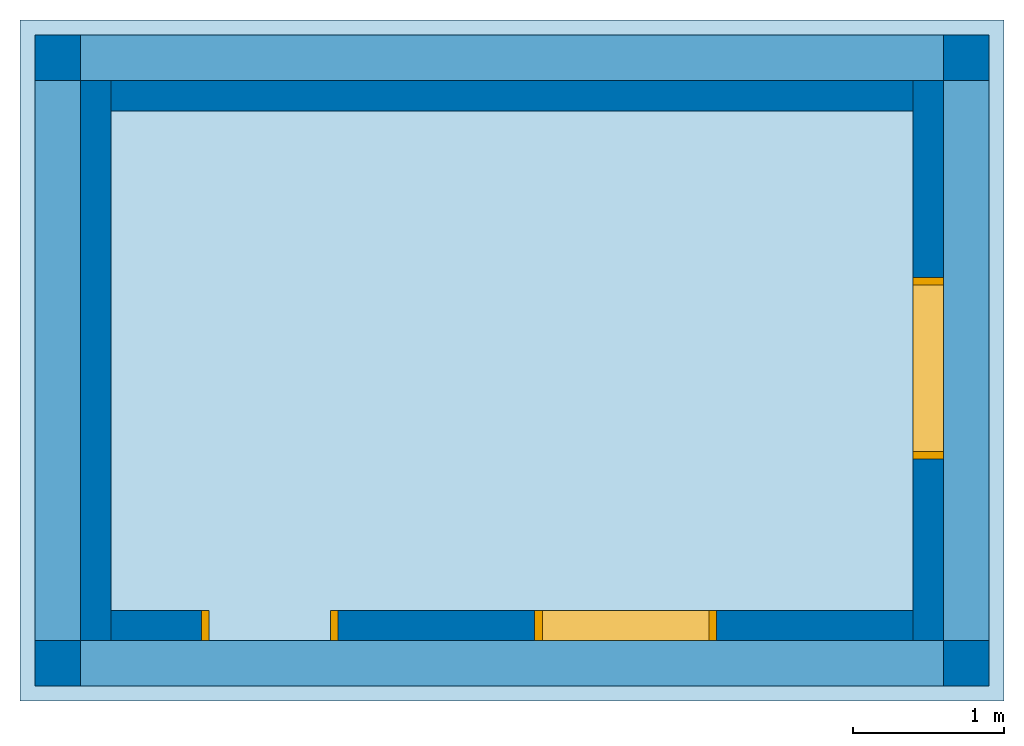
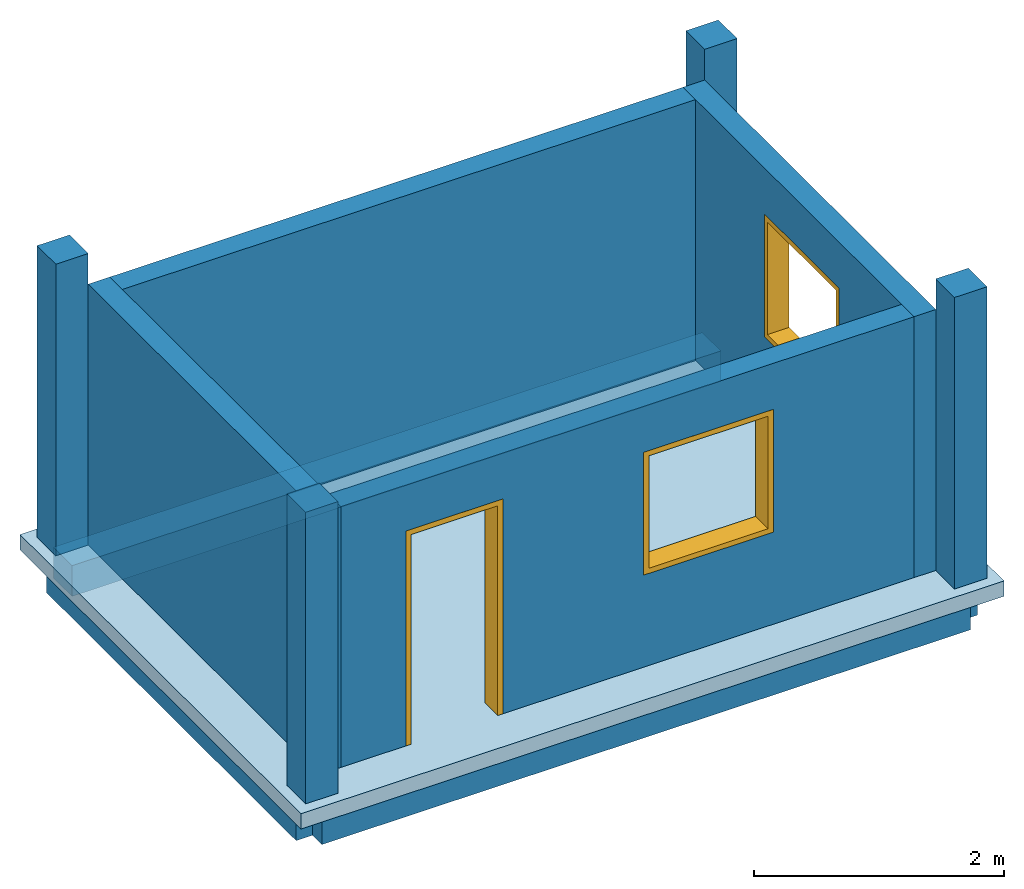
# One storey: 4 beams, 4 columns, 4 walls, 2 windows, 1 door, 1 slab, 3 openings.
"""IFC4 building model written with IfcOpenShell, lengths in metres."""

from ifc_helpers import new_model, si_unit, frame, origin_with_axes, place, context, subcontext, project, spatial, polyline, outline, extrude, boolean, material, layer, layer_set, layer_usage, type_object, element, fill, save


model = new_model("IFC4")

# Units and contexts
model_context = context("Model", 3, precision=1e-07, world=origin_with_axes())
body_context = subcontext(model_context, "Body", "Model", "MODEL_VIEW")
ifc_project = project(units=[si_unit("LENGTHUNIT", "METRE"), si_unit("AREAUNIT", "SQUARE_METRE"), si_unit("VOLUMEUNIT", "CUBIC_METRE")], contexts=[model_context])

# Site, building, storey
site_placement = place(None, origin_with_axes())
site = spatial("IfcSite", under=ifc_project, at=site_placement, Name="3117 Site", CompositionType="ELEMENT")
building_placement = place(site_placement, origin_with_axes())
building = spatial("IfcBuilding", under=site, at=building_placement, Name="3117 อาคารสองชั้น", CompositionType="ELEMENT")
storey_placement = place(building_placement, frame((0.0, 0.0, 3.0), z_axis=(0.0, 0.0, 1.0), x_axis=(1.0, 0.0, 0.0)))
storey = spatial("IfcBuildingStorey", under=building, at=storey_placement, Name="L01", CompositionType="ELEMENT", Elevation=3.0)

# Columns
ifc_material_1 = material(Name="Concrete")
column_type = type_object("IfcColumnType", Name="Column 300 x 300", PredefinedType="COLUMN", material=ifc_material_1)
column_1_placement = place(storey_placement, frame((6.0, 4.0, 0.0), z_axis=(0.0, 0.0, 1.0), x_axis=(1.0, 0.0, 0.0)))
element("IfcColumn", 1, at=column_1_placement, inside=storey, type_object=column_type, Name="C23", PredefinedType="COLUMN", context=body_context, shape_type="CSG", body=[
    boolean("DIFFERENCE", extrude(outline(polyline([(0.0, 0.0), (0.3, 0.0), (0.3, 0.3), (0.0, 0.3), (0.0, 0.0)])), frame((-0.15, -0.15, 0.0), z_axis=(0.0, 0.0, 1.0), x_axis=(1.0, 0.0, 0.0)), (0.0, 0.0, 1.0), 3.0), extrude(outline(polyline([(-6.25, -4.25), (0.25, -4.25), (0.25, 0.25), (-6.25, 0.25), (-6.25, -4.25)])), frame((0.0, 0.0, 2.85), z_axis=(0.0, 0.0, 1.0), x_axis=(1.0, 0.0, 0.0)), (0.0, 0.0, 1.0), 0.15)),
])
column_2_placement = place(storey_placement, frame((6.0, 0.0, 0.0), z_axis=(0.0, 0.0, 1.0), x_axis=(1.0, 0.0, 0.0)))
element("IfcColumn", 2, at=column_2_placement, inside=storey, type_object=column_type, Name="C22", PredefinedType="COLUMN", context=body_context, shape_type="CSG", body=[
    boolean("DIFFERENCE", extrude(outline(polyline([(0.0, 0.0), (0.3, 0.0), (0.3, 0.3), (0.0, 0.3), (0.0, 0.0)])), frame((-0.15, -0.15, 0.0), z_axis=(0.0, 0.0, 1.0), x_axis=(1.0, 0.0, 0.0)), (0.0, 0.0, 1.0), 3.0), extrude(outline(polyline([(-6.25, -0.25), (0.25, -0.25), (0.25, 4.25), (-6.25, 4.25), (-6.25, -0.25)])), frame((0.0, 0.0, 2.85), z_axis=(0.0, 0.0, 1.0), x_axis=(1.0, 0.0, 0.0)), (0.0, 0.0, 1.0), 0.15)),
])
column_3_placement = place(storey_placement, frame((0.0, 4.0, 0.0), z_axis=(0.0, 0.0, 1.0), x_axis=(1.0, 0.0, 0.0)))
element("IfcColumn", 3, at=column_3_placement, inside=storey, type_object=column_type, Name="C24", PredefinedType="COLUMN", context=body_context, shape_type="CSG", body=[
    boolean("DIFFERENCE", extrude(outline(polyline([(0.0, 0.0), (0.3, 0.0), (0.3, 0.3), (0.0, 0.3), (0.0, 0.0)])), frame((-0.15, -0.15, 0.0), z_axis=(0.0, 0.0, 1.0), x_axis=(1.0, 0.0, 0.0)), (0.0, 0.0, 1.0), 3.0), extrude(outline(polyline([(-0.25, -4.25), (6.25, -4.25), (6.25, 0.25), (-0.25, 0.25), (-0.25, -4.25)])), frame((0.0, 0.0, 2.85), z_axis=(0.0, 0.0, 1.0), x_axis=(1.0, 0.0, 0.0)), (0.0, 0.0, 1.0), 0.15)),
])
column_4_placement = place(storey_placement, origin_with_axes())
element("IfcColumn", 4, at=column_4_placement, inside=storey, type_object=column_type, Name="C21", PredefinedType="COLUMN", context=body_context, shape_type="CSG", body=[
    boolean("DIFFERENCE", extrude(outline(polyline([(0.0, 0.0), (0.3, 0.0), (0.3, 0.3), (0.0, 0.3), (0.0, 0.0)])), frame((-0.15, -0.15, 0.0), z_axis=(0.0, 0.0, 1.0), x_axis=(1.0, 0.0, 0.0)), (0.0, 0.0, 1.0), 3.0), extrude(outline(polyline([(-0.25, -0.25), (6.25, -0.25), (6.25, 4.25), (-0.25, 4.25), (-0.25, -0.25)])), frame((0.0, 0.0, 2.85), z_axis=(0.0, 0.0, 1.0), x_axis=(1.0, 0.0, 0.0)), (0.0, 0.0, 1.0), 0.15)),
])

# Beams
beam_type = type_object("IfcBeamType", Name="Beam 300 x 450", PredefinedType="BEAM", material=ifc_material_1)
beam_1_placement = place(storey_placement, frame((6.0, 0.0, -0.45), z_axis=(0.0, 0.0, 1.0), x_axis=(0.0, 1.0, 0.0)))
element("IfcBeam", 5, at=beam_1_placement, inside=storey, type_object=beam_type, Name="B12", PredefinedType="BEAM", context=body_context, shape_type="CSG", body=[
    boolean("DIFFERENCE", extrude(outline(polyline([(0.0, 0.0), (4.0, 0.0), (4.0, 0.3), (0.0, 0.3), (0.0, 0.0)])), frame((0.0, -0.15, 0.0), z_axis=(0.0, 0.0, 1.0), x_axis=(1.0, 0.0, 0.0)), (0.0, 0.0, 1.0), 0.45), extrude(outline(polyline([(-0.25, 6.25), (-0.25, -0.25), (4.25, -0.25), (4.25, 6.25), (-0.25, 6.25)])), frame((0.0, 0.0, 0.3), z_axis=(0.0, 0.0, 1.0), x_axis=(1.0, 0.0, 0.0)), (0.0, 0.0, 1.0), 0.15)),
])
beam_2_placement = place(storey_placement, frame((0.0, 0.0, -0.45), z_axis=(0.0, 0.0, 1.0), x_axis=(1.0, 0.0, 0.0)))
element("IfcBeam", 6, at=beam_2_placement, inside=storey, type_object=beam_type, Name="B11", PredefinedType="BEAM", context=body_context, shape_type="CSG", body=[
    boolean("DIFFERENCE", extrude(outline(polyline([(0.0, 0.0), (6.0, 0.0), (6.0, 0.3), (0.0, 0.3), (0.0, 0.0)])), frame((0.0, -0.15, 0.0), z_axis=(0.0, 0.0, 1.0), x_axis=(1.0, 0.0, 0.0)), (0.0, 0.0, 1.0), 0.45), extrude(outline(polyline([(-0.25, -0.25), (6.25, -0.25), (6.25, 4.25), (-0.25, 4.25), (-0.25, -0.25)])), frame((0.0, 0.0, 0.3), z_axis=(0.0, 0.0, 1.0), x_axis=(1.0, 0.0, 0.0)), (0.0, 0.0, 1.0), 0.15)),
])
beam_3_placement = place(storey_placement, frame((6.0, 4.0, -0.45), z_axis=(0.0, 0.0, 1.0), x_axis=(-1.0, 0.0, 0.0)))
element("IfcBeam", 7, at=beam_3_placement, inside=storey, type_object=beam_type, Name="B13", PredefinedType="BEAM", context=body_context, shape_type="CSG", body=[
    boolean("DIFFERENCE", extrude(outline(polyline([(0.0, 0.0), (6.0, 0.0), (6.0, 0.3), (0.0, 0.3), (0.0, 0.0)])), frame((0.0, -0.15, 0.0), z_axis=(0.0, 0.0, 1.0), x_axis=(1.0, 0.0, 0.0)), (0.0, 0.0, 1.0), 0.45), extrude(outline(polyline([(6.25, 4.25), (-0.25, 4.25), (-0.25, -0.25), (6.25, -0.25), (6.25, 4.25)])), frame((0.0, 0.0, 0.3), z_axis=(0.0, 0.0, 1.0), x_axis=(1.0, 0.0, 0.0)), (0.0, 0.0, 1.0), 0.15)),
])
beam_4_placement = place(storey_placement, frame((0.0, 4.0, -0.45), z_axis=(0.0, 0.0, 1.0), x_axis=(0.0, -1.0, 0.0)))
element("IfcBeam", 8, at=beam_4_placement, inside=storey, type_object=beam_type, Name="B14", PredefinedType="BEAM", context=body_context, shape_type="CSG", body=[
    boolean("DIFFERENCE", extrude(outline(polyline([(0.0, 0.0), (4.0, 0.0), (4.0, 0.3), (0.0, 0.3), (0.0, 0.0)])), frame((0.0, -0.15, 0.0), z_axis=(0.0, 0.0, 1.0), x_axis=(1.0, 0.0, 0.0)), (0.0, 0.0, 1.0), 0.45), extrude(outline(polyline([(4.25, -0.25), (4.25, 6.25), (-0.25, 6.25), (-0.25, -0.25), (4.25, -0.25)])), frame((0.0, 0.0, 0.3), z_axis=(0.0, 0.0, 1.0), x_axis=(1.0, 0.0, 0.0)), (0.0, 0.0, 1.0), 0.15)),
])

# Slab
ifc_material_2 = material(Name="Floor finish")
ifc_layer_1 = layer(ifc_material_2, 0.01, Name="finish", Category="finish")
ifc_material_3 = material(Name="Screed")
ifc_layer_2 = layer(ifc_material_3, 0.04, Name="substrate", Category="substrate")
ifc_layer_3 = layer(ifc_material_1, 0.1, Name="structure", Category="structure")
ifc_layer_set_1 = layer_set([ifc_layer_1, ifc_layer_2, ifc_layer_3], Name="Slab 150 layered")
ifc_layer_usage_1 = layer_usage(ifc_layer_set_1, "AXIS3", "NEGATIVE", 0.15)
slab_type = type_object("IfcSlabType", Name="Slab 150 layered", PredefinedType="FLOOR", material=ifc_layer_set_1)
slab_placement = place(storey_placement, frame((0.0, 0.0, -0.15), z_axis=(0.0, 0.0, 1.0), x_axis=(1.0, 0.0, 0.0)))
element("IfcSlab", 9, at=slab_placement, inside=storey, type_object=slab_type, material=ifc_layer_usage_1, Name="S01", PredefinedType="FLOOR", context=body_context, shape_type="SweptSolid", body=[
    extrude(outline(polyline([(-0.25, -0.25), (6.25, -0.25), (6.25, 4.25), (-0.25, 4.25), (-0.25, -0.25)])), origin_with_axes(), (0.0, 0.0, 1.0), 0.15),
])

# Wall, openings, door, window
ifc_material_4 = material(Name="Plaster")
ifc_layer_4 = layer(ifc_material_4, 0.015, Name="finish", Category="finish")
ifc_material_5 = material(Name="Masonry")
ifc_layer_5 = layer(ifc_material_5, 0.17, Name="core", Category="core")
ifc_layer_6 = layer(ifc_material_4, 0.015, Name="finish", Category="finish")
ifc_layer_set_2 = layer_set([ifc_layer_4, ifc_layer_5, ifc_layer_6], Name="Wall 200 layered")
ifc_layer_usage_2 = layer_usage(ifc_layer_set_2, "AXIS2", "POSITIVE", 0.0)
wall_type = type_object("IfcWallType", Name="Wall 200 layered", PredefinedType="STANDARD", material=ifc_layer_set_2)
wall_1_placement = place(storey_placement, frame((0.15, 0.15, 0.0), z_axis=(0.0, 0.0, 1.0), x_axis=(1.0, 0.0, 0.0)))
wall_1 = element("IfcWall", 10, at=wall_1_placement, inside=storey, type_object=wall_type, material=ifc_layer_usage_2, Name="Wall 2-1", PredefinedType="STANDARD", context=body_context, shape_type="SweptSolid", body=[
    extrude(outline(polyline([(0.0, 0.0), (5.7, 0.0), (5.7, 0.2), (0.0, 0.2), (0.0, 0.0)])), origin_with_axes(), (0.0, 0.0, 1.0), 2.55),
])
opening_1_placement = place(wall_1_placement, frame((3.0, -1e-06, 0.9), z_axis=(0.0, 0.0, 1.0), x_axis=(1.0, 0.0, 0.0)))
opening_1 = element("IfcOpeningElement", 11, at=opening_1_placement, cuts=wall_1, Name="Opening — WIN21", PredefinedType="OPENING", context=body_context, shape_type="SweptSolid", body=[
    extrude(outline(polyline([(0.0, 0.0), (1.2, 0.0), (1.2, 0.200002), (0.0, 0.200002), (0.0, 0.0)])), origin_with_axes(), (0.0, 0.0, 1.0), 1.2),
])
opening_2_placement = place(wall_1_placement, frame((0.8, -1e-06, 0.0), z_axis=(0.0, 0.0, 1.0), x_axis=(1.0, 0.0, 0.0)))
opening_2 = element("IfcOpeningElement", 12, at=opening_2_placement, cuts=wall_1, Name="Opening — D02", PredefinedType="OPENING", context=body_context, shape_type="SweptSolid", body=[
    extrude(outline(polyline([(0.0, 0.0), (0.9, 0.0), (0.9, 0.200002), (0.0, 0.200002), (0.0, 0.0)])), origin_with_axes(), (0.0, 0.0, 1.0), 2.1),
])
ifc_material_6 = material(Name="Timber frame")
door_type = type_object("IfcDoorType", Name="Door 900 x 2100", OperationType="NOTDEFINED", ParameterTakesPrecedence=False, PredefinedType="DOOR", material=ifc_material_6)
door_placement = place(opening_2_placement, frame((0.0, 1e-06, 0.0), z_axis=(0.0, 0.0, 1.0), x_axis=(1.0, 0.0, 0.0)))
door = element("IfcDoor", 13, at=door_placement, inside=storey, type_object=door_type, Name="D02", OperationType="NOTDEFINED", OverallHeight=2.1, OverallWidth=0.9, PredefinedType="DOOR", context=body_context, shape_type="SweptSolid", body=[
    extrude(outline(polyline([(0.0, 0.0), (0.05, 0.0), (0.05, 0.2), (0.0, 0.2), (0.0, 0.0)])), origin_with_axes(), (0.0, 0.0, 1.0), 2.05),
    extrude(outline(polyline([(0.0, 0.0), (0.05, 0.0), (0.05, 0.2), (0.0, 0.2), (0.0, 0.0)])), frame((0.85, 0.0, 0.0), z_axis=(0.0, 0.0, 1.0), x_axis=(1.0, 0.0, 0.0)), (0.0, 0.0, 1.0), 2.05),
    extrude(outline(polyline([(0.0, 0.0), (0.9, 0.0), (0.9, 0.2), (0.0, 0.2), (0.0, 0.0)])), frame((0.0, 0.0, 2.05), z_axis=(0.0, 0.0, 1.0), x_axis=(1.0, 0.0, 0.0)), (0.0, 0.0, 1.0), 0.05),
])
fill(opening_2, door)
ifc_material_7 = material(Name="Aluminium frame")
window_type = type_object("IfcWindowType", Name="Window 1200 x 1200", ParameterTakesPrecedence=False, PartitioningType="NOTDEFINED", PredefinedType="WINDOW", material=ifc_material_7)
window_1_placement = place(opening_1_placement, frame((0.0, 1e-06, 0.0), z_axis=(0.0, 0.0, 1.0), x_axis=(1.0, 0.0, 0.0)))
window_1 = element("IfcWindow", 14, at=window_1_placement, inside=storey, type_object=window_type, Name="WIN21", OverallHeight=1.2, OverallWidth=1.2, PartitioningType="NOTDEFINED", PredefinedType="WINDOW", context=body_context, shape_type="SweptSolid", body=[
    extrude(outline(polyline([(0.0, 0.0), (0.05, 0.0), (0.05, 0.2), (0.0, 0.2), (0.0, 0.0)])), origin_with_axes(), (0.0, 0.0, 1.0), 1.2),
    extrude(outline(polyline([(0.0, 0.0), (0.05, 0.0), (0.05, 0.2), (0.0, 0.2), (0.0, 0.0)])), frame((1.15, 0.0, 0.0), z_axis=(0.0, 0.0, 1.0), x_axis=(1.0, 0.0, 0.0)), (0.0, 0.0, 1.0), 1.2),
    extrude(outline(polyline([(0.0, 0.0), (1.1, 0.0), (1.1, 0.2), (0.0, 0.2), (0.0, 0.0)])), frame((0.05, 0.0, 0.0), z_axis=(0.0, 0.0, 1.0), x_axis=(1.0, 0.0, 0.0)), (0.0, 0.0, 1.0), 0.05),
    extrude(outline(polyline([(0.0, 0.0), (1.1, 0.0), (1.1, 0.2), (0.0, 0.2), (0.0, 0.0)])), frame((0.05, 0.0, 1.15), z_axis=(0.0, 0.0, 1.0), x_axis=(1.0, 0.0, 0.0)), (0.0, 0.0, 1.0), 0.05),
])
fill(opening_1, window_1)

# Wall, opening, window
ifc_layer_usage_3 = layer_usage(ifc_layer_set_2, "AXIS2", "POSITIVE", 0.0)
wall_2_placement = place(storey_placement, frame((5.85, 0.15, 0.0), z_axis=(0.0, 0.0, 1.0), x_axis=(0.0, 1.0, 0.0)))
wall_2 = element("IfcWall", 15, at=wall_2_placement, inside=storey, type_object=wall_type, material=ifc_layer_usage_3, Name="Wall 2-2", PredefinedType="STANDARD", context=body_context, shape_type="SweptSolid", body=[
    extrude(outline(polyline([(0.0, 0.0), (3.7, 0.0), (3.7, 0.2), (0.0, 0.2), (0.0, 0.0)])), origin_with_axes(), (0.0, 0.0, 1.0), 2.55),
])
opening_3_placement = place(wall_2_placement, frame((1.2, -1e-06, 0.9), z_axis=(0.0, 0.0, 1.0), x_axis=(1.0, 0.0, 0.0)))
opening_3 = element("IfcOpeningElement", 16, at=opening_3_placement, cuts=wall_2, Name="Opening — WIN22", PredefinedType="OPENING", context=body_context, shape_type="SweptSolid", body=[
    extrude(outline(polyline([(0.0, 0.0), (1.2, 0.0), (1.2, 0.200002), (0.0, 0.200002), (0.0, 0.0)])), origin_with_axes(), (0.0, 0.0, 1.0), 1.2),
])
window_2_placement = place(opening_3_placement, frame((0.0, 1e-06, 0.0), z_axis=(0.0, 0.0, 1.0), x_axis=(1.0, 0.0, 0.0)))
window_2 = element("IfcWindow", 17, at=window_2_placement, inside=storey, type_object=window_type, Name="WIN22", OverallHeight=1.2, OverallWidth=1.2, PartitioningType="NOTDEFINED", PredefinedType="WINDOW", context=body_context, shape_type="SweptSolid", body=[
    extrude(outline(polyline([(0.0, 0.0), (0.05, 0.0), (0.05, 0.2), (0.0, 0.2), (0.0, 0.0)])), origin_with_axes(), (0.0, 0.0, 1.0), 1.2),
    extrude(outline(polyline([(0.0, 0.0), (0.05, 0.0), (0.05, 0.2), (0.0, 0.2), (0.0, 0.0)])), frame((1.15, 0.0, 0.0), z_axis=(0.0, 0.0, 1.0), x_axis=(1.0, 0.0, 0.0)), (0.0, 0.0, 1.0), 1.2),
    extrude(outline(polyline([(0.0, 0.0), (1.1, 0.0), (1.1, 0.2), (0.0, 0.2), (0.0, 0.0)])), frame((0.05, 0.0, 0.0), z_axis=(0.0, 0.0, 1.0), x_axis=(1.0, 0.0, 0.0)), (0.0, 0.0, 1.0), 0.05),
    extrude(outline(polyline([(0.0, 0.0), (1.1, 0.0), (1.1, 0.2), (0.0, 0.2), (0.0, 0.0)])), frame((0.05, 0.0, 1.15), z_axis=(0.0, 0.0, 1.0), x_axis=(1.0, 0.0, 0.0)), (0.0, 0.0, 1.0), 0.05),
])
fill(opening_3, window_2)

# Walls
ifc_layer_usage_4 = layer_usage(ifc_layer_set_2, "AXIS2", "POSITIVE", 0.0)
wall_3_placement = place(storey_placement, frame((5.85, 3.85, 0.0), z_axis=(0.0, 0.0, 1.0), x_axis=(-1.0, 0.0, 0.0)))
element("IfcWall", 18, at=wall_3_placement, inside=storey, type_object=wall_type, material=ifc_layer_usage_4, Name="Wall 2-3", PredefinedType="STANDARD", context=body_context, shape_type="SweptSolid", body=[
    extrude(outline(polyline([(0.0, 0.0), (5.7, 0.0), (5.7, 0.2), (0.0, 0.2), (0.0, 0.0)])), origin_with_axes(), (0.0, 0.0, 1.0), 2.55),
])
ifc_layer_usage_5 = layer_usage(ifc_layer_set_2, "AXIS2", "POSITIVE", 0.0)
wall_4_placement = place(storey_placement, frame((0.15, 3.85, 0.0), z_axis=(0.0, 0.0, 1.0), x_axis=(0.0, -1.0, 0.0)))
element("IfcWall", 19, at=wall_4_placement, inside=storey, type_object=wall_type, material=ifc_layer_usage_5, Name="Wall 2-4", PredefinedType="STANDARD", context=body_context, shape_type="SweptSolid", body=[
    extrude(outline(polyline([(0.0, 0.0), (3.7, 0.0), (3.7, 0.2), (0.0, 0.2), (0.0, 0.0)])), origin_with_axes(), (0.0, 0.0, 1.0), 2.55),
])

save(model, "model.ifc")
